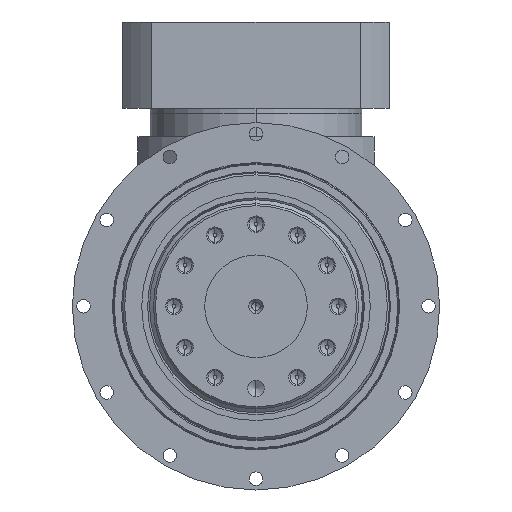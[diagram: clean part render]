
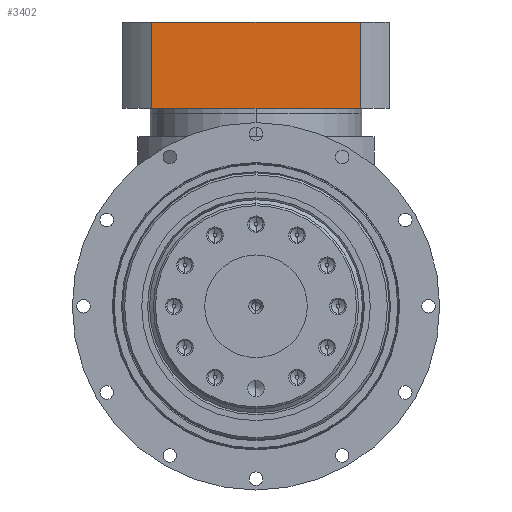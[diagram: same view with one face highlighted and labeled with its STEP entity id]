
A CAD part, left-side view. The second image highlights one B-rep face of the part: STEP entity #3402.
In plain terms, the highlighted planar face has unit normal (-1, 0, 0).
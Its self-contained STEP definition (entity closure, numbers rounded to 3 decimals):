
#1217 = CARTESIAN_POINT ( 'NONE',  ( 64., 65., -139.179 ) ) ;
#1408 = VERTEX_POINT ( 'NONE', #3311 ) ;
#1968 = CARTESIAN_POINT ( 'NONE',  ( 64., -50.806, 90.5 ) ) ;
#2509 = LINE ( 'NONE', #3591, #22784 ) ;
#2786 = VECTOR ( 'NONE', #7561, 1000. ) ;
#3118 = EDGE_CURVE ( 'NONE', #19922, #18392, #8507, .T. ) ;
#3135 = DIRECTION ( 'NONE',  ( -1., 0., 0. ) ) ;
#3311 = CARTESIAN_POINT ( 'NONE',  ( 64., -50.806, 96.5 ) ) ;
#3402 = ADVANCED_FACE ( 'NONE', ( #7899 ), #6885, .T. ) ;
#3591 = CARTESIAN_POINT ( 'NONE',  ( 64., 0., 138.5 ) ) ;
#3763 = ORIENTED_EDGE ( 'NONE', *, *, #4802, .T. ) ;
#3816 = LINE ( 'NONE', #17167, #13107 ) ;
#4199 = EDGE_CURVE ( 'NONE', #21934, #19922, #2509, .T. ) ;
#4802 = EDGE_CURVE ( 'NONE', #1408, #21934, #23076, .T. ) ;
#5756 = CARTESIAN_POINT ( 'NONE',  ( 64., 50.806, 138.5 ) ) ;
#6885 = PLANE ( 'NONE',  #21295 ) ;
#6919 = CARTESIAN_POINT ( 'NONE',  ( 64., 50.806, 90.5 ) ) ;
#7561 = DIRECTION ( 'NONE',  ( 0., 0., 1. ) ) ;
#7730 = DIRECTION ( 'NONE',  ( 0., 1., 0. ) ) ;
#7899 = FACE_OUTER_BOUND ( 'NONE', #16339, .T. ) ;
#7912 = ORIENTED_EDGE ( 'NONE', *, *, #4199, .T. ) ;
#8507 = LINE ( 'NONE', #6919, #17172 ) ;
#9293 = CARTESIAN_POINT ( 'NONE',  ( 64., 50.806, 96.5 ) ) ;
#9661 = DIRECTION ( 'NONE',  ( 0., 0., -1. ) ) ;
#13107 = VECTOR ( 'NONE', #7730, 1000. ) ;
#14989 = EDGE_CURVE ( 'NONE', #1408, #18392, #3816, .T. ) ;
#16339 = EDGE_LOOP ( 'NONE', ( #17868, #17261, #3763, #7912 ) ) ;
#16499 = DIRECTION ( 'NONE',  ( 0., -1., 0. ) ) ;
#17167 = CARTESIAN_POINT ( 'NONE',  ( 64., 65., 96.5 ) ) ;
#17172 = VECTOR ( 'NONE', #9661, 1000. ) ;
#17261 = ORIENTED_EDGE ( 'NONE', *, *, #14989, .F. ) ;
#17868 = ORIENTED_EDGE ( 'NONE', *, *, #3118, .T. ) ;
#18392 = VERTEX_POINT ( 'NONE', #9293 ) ;
#19922 = VERTEX_POINT ( 'NONE', #5756 ) ;
#21295 = AXIS2_PLACEMENT_3D ( 'NONE', #1217, #3135, #16499 ) ;
#21934 = VERTEX_POINT ( 'NONE', #24763 ) ;
#22537 = DIRECTION ( 'NONE',  ( 0., 1., 0. ) ) ;
#22784 = VECTOR ( 'NONE', #22537, 1000. ) ;
#23076 = LINE ( 'NONE', #1968, #2786 ) ;
#24763 = CARTESIAN_POINT ( 'NONE',  ( 64., -50.806, 138.5 ) ) ;
